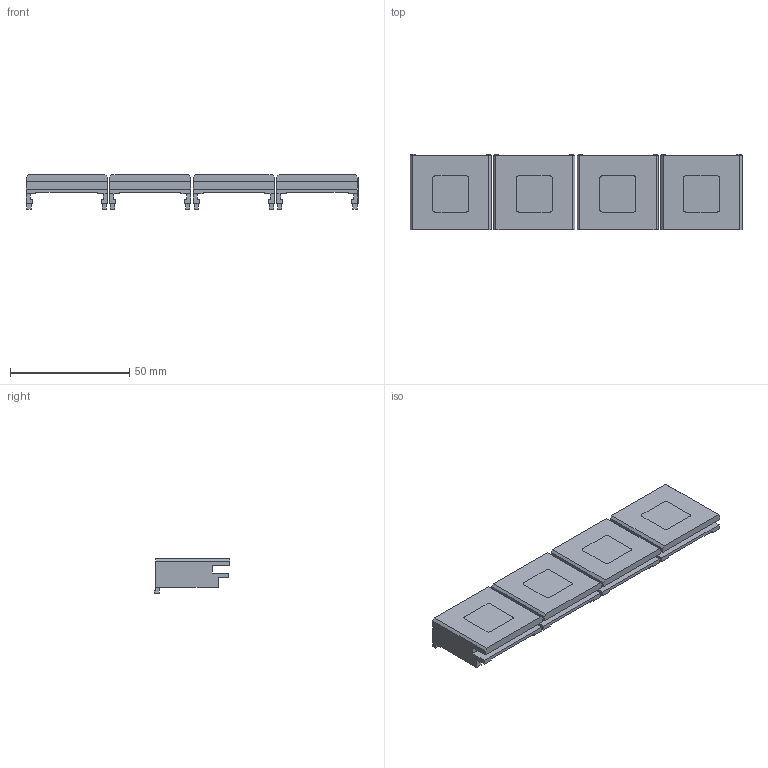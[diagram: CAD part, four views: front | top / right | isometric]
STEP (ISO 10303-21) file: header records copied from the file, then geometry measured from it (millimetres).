
FILE_DESCRIPTION(/* description */ (''),/* implementation_level */ '2;1');
FILE_NAME(/* name */ 'LA-5036-0203#-A.stp',/* time_stamp */ '2012-09-04T13:11:20+01:00',/* author */ (''),/* organization */ (''),/* preprocessor_version */ 'ST-DEVELOPER v11',/* originating_system */ 'SIEMENS PLM Software NX 7.5',/* authorisation */ '');
FILE_SCHEMA (('AUTOMOTIVE_DESIGN { 1 0 10303 214 1 1 1 1 }'));
Length unit declared in the file: millimetre
Products named in the file (1): rt133622tjl2
Bounding box: 139 x 31.8 x 14.5 mm (x, y, z)
Volume: 20620.1 mm3; surface area: 17130 mm2
Topology: 4 solids, 4 shells, 172 faces, 512 edges, 352 vertices
Faces by surface type: plane 172
Entity records: 6953 total; most frequent: CARTESIAN_POINT 1037, ORIENTED_EDGE 1024, DIRECTION 874, EDGE_CURVE 512, LINE 496, VECTOR 496, VERTEX_POINT 352, AXIS2_PLACEMENT_3D 189
